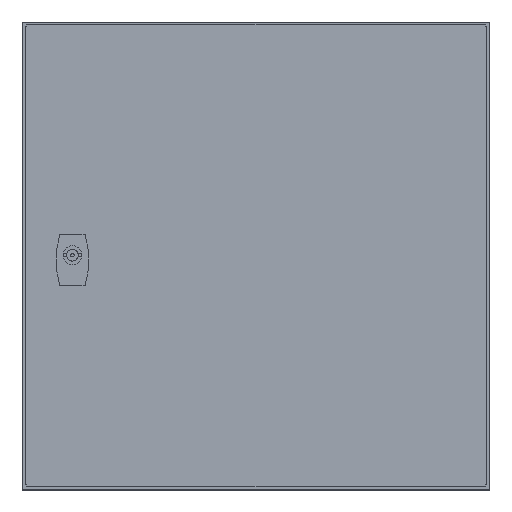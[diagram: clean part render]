
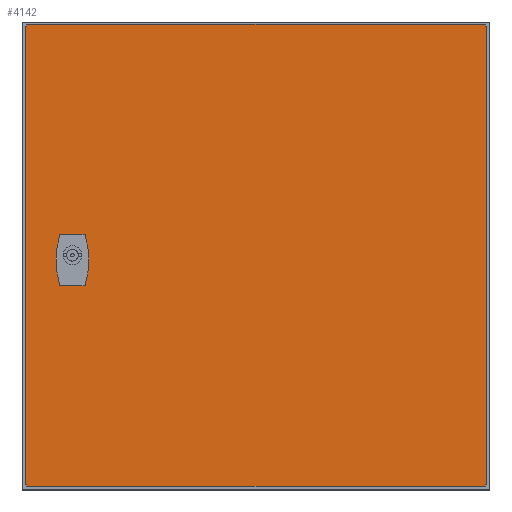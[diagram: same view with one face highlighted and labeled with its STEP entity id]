
A CAD part, top view. The second image highlights one B-rep face of the part: STEP entity #4142.
In plain terms, the highlighted planar face has unit normal (0, 0, 1) as drawn and (0, 1, 0) by its records, which use the part's own axes.
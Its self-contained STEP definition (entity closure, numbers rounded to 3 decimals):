
#3573=DIRECTION('',(1.,0.,0.));
#3574=VECTOR('',#3573,1.5);
#3575=CARTESIAN_POINT('',(-197.5,16.5,-196.));
#3576=LINE('',#3575,#3574);
#3580=DIRECTION('',(0.,0.,1.));
#3581=VECTOR('',#3580,1.5);
#3582=CARTESIAN_POINT('',(-196.,16.5,-197.5));
#3583=LINE('',#3582,#3581);
#3587=DIRECTION('',(-1.,0.,0.));
#3588=VECTOR('',#3587,392.);
#3589=CARTESIAN_POINT('',(196.,16.5,-197.5));
#3590=LINE('',#3589,#3588);
#3594=DIRECTION('',(0.,0.,1.));
#3595=VECTOR('',#3594,1.5);
#3596=CARTESIAN_POINT('',(196.,16.5,-197.5));
#3597=LINE('',#3596,#3595);
#3601=DIRECTION('',(-1.,0.,0.));
#3602=VECTOR('',#3601,1.5);
#3603=CARTESIAN_POINT('',(197.5,16.5,-196.));
#3604=LINE('',#3603,#3602);
#3608=DIRECTION('',(0.,0.,-1.));
#3609=VECTOR('',#3608,392.);
#3610=CARTESIAN_POINT('',(197.5,16.5,196.));
#3611=LINE('',#3610,#3609);
#3615=DIRECTION('',(-1.,0.,0.));
#3616=VECTOR('',#3615,1.5);
#3617=CARTESIAN_POINT('',(197.5,16.5,196.));
#3618=LINE('',#3617,#3616);
#3622=DIRECTION('',(0.,0.,-1.));
#3623=VECTOR('',#3622,1.5);
#3624=CARTESIAN_POINT('',(196.,16.5,197.5));
#3625=LINE('',#3624,#3623);
#3629=DIRECTION('',(1.,0.,0.));
#3630=VECTOR('',#3629,392.);
#3631=CARTESIAN_POINT('',(-196.,16.5,197.5));
#3632=LINE('',#3631,#3630);
#3636=DIRECTION('',(0.,0.,-1.));
#3637=VECTOR('',#3636,1.5);
#3638=CARTESIAN_POINT('',(-196.,16.5,197.5));
#3639=LINE('',#3638,#3637);
#3643=DIRECTION('',(1.,0.,0.));
#3644=VECTOR('',#3643,1.5);
#3645=CARTESIAN_POINT('',(-197.5,16.5,196.));
#3646=LINE('',#3645,#3644);
#3650=DIRECTION('',(0.,0.,1.));
#3651=VECTOR('',#3650,392.);
#3652=CARTESIAN_POINT('',(-197.5,16.5,-196.));
#3653=LINE('',#3652,#3651);
#3944=DIRECTION('',(0.,0.,-1.));
#3945=VECTOR('',#3944,20.1);
#3946=CARTESIAN_POINT('',(-167.55,16.5,10.05));
#3947=LINE('',#3946,#3945);
#3965=DIRECTION('',(-1.,0.,0.));
#3966=VECTOR('',#3965,20.1);
#3967=CARTESIAN_POINT('',(-147.45,16.5,10.05));
#3968=LINE('',#3967,#3966);
#3986=DIRECTION('',(0.,0.,1.));
#3987=VECTOR('',#3986,20.1);
#3988=CARTESIAN_POINT('',(-147.45,16.5,-10.05));
#3989=LINE('',#3988,#3987);
#4007=DIRECTION('',(1.,0.,0.));
#4008=VECTOR('',#4007,20.1);
#4009=CARTESIAN_POINT('',(-167.55,16.5,-10.05));
#4010=LINE('',#4009,#4008);
#4053=CARTESIAN_POINT('',(-197.5,16.5,-196.));
#4054=CARTESIAN_POINT('',(-196.,16.5,-196.));
#4055=VERTEX_POINT('',#4053);
#4056=VERTEX_POINT('',#4054);
#4057=CARTESIAN_POINT('',(-196.,16.5,-197.5));
#4058=VERTEX_POINT('',#4057);
#4059=CARTESIAN_POINT('',(196.,16.5,-197.5));
#4060=CARTESIAN_POINT('',(196.,16.5,-196.));
#4061=VERTEX_POINT('',#4059);
#4062=VERTEX_POINT('',#4060);
#4063=CARTESIAN_POINT('',(197.5,16.5,-196.));
#4064=VERTEX_POINT('',#4063);
#4065=CARTESIAN_POINT('',(197.5,16.5,196.));
#4066=CARTESIAN_POINT('',(196.,16.5,196.));
#4067=VERTEX_POINT('',#4065);
#4068=VERTEX_POINT('',#4066);
#4069=CARTESIAN_POINT('',(196.,16.5,197.5));
#4070=VERTEX_POINT('',#4069);
#4071=CARTESIAN_POINT('',(-196.,16.5,197.5));
#4072=CARTESIAN_POINT('',(-196.,16.5,196.));
#4073=VERTEX_POINT('',#4071);
#4074=VERTEX_POINT('',#4072);
#4075=CARTESIAN_POINT('',(-197.5,16.5,196.));
#4076=VERTEX_POINT('',#4075);
#4085=CARTESIAN_POINT('',(-167.55,16.5,-10.05));
#4087=VERTEX_POINT('',#4085);
#4089=CARTESIAN_POINT('',(-167.55,16.5,10.05));
#4091=VERTEX_POINT('',#4089);
#4093=CARTESIAN_POINT('',(-147.45,16.5,10.05));
#4095=VERTEX_POINT('',#4093);
#4097=CARTESIAN_POINT('',(-147.45,16.5,-10.05));
#4099=VERTEX_POINT('',#4097);
#4101=CARTESIAN_POINT('',(0.,16.5,0.));
#4102=DIRECTION('',(0.,1.,0.));
#4103=DIRECTION('',(1.,0.,0.));
#4104=AXIS2_PLACEMENT_3D('',#4101,#4102,#4103);
#4105=PLANE('',#4104);
#4107=ORIENTED_EDGE('',*,*,#4106,.T.);
#4109=ORIENTED_EDGE('',*,*,#4108,.F.);
#4111=ORIENTED_EDGE('',*,*,#4110,.F.);
#4113=ORIENTED_EDGE('',*,*,#4112,.T.);
#4115=ORIENTED_EDGE('',*,*,#4114,.F.);
#4117=ORIENTED_EDGE('',*,*,#4116,.F.);
#4119=ORIENTED_EDGE('',*,*,#4118,.T.);
#4121=ORIENTED_EDGE('',*,*,#4120,.F.);
#4123=ORIENTED_EDGE('',*,*,#4122,.F.);
#4125=ORIENTED_EDGE('',*,*,#4124,.T.);
#4127=ORIENTED_EDGE('',*,*,#4126,.F.);
#4129=ORIENTED_EDGE('',*,*,#4128,.F.);
#4130=EDGE_LOOP('',(#4107,#4109,#4111,#4113,#4115,#4117,#4119,#4121,#4123,#4125,
#4127,#4129));
#4131=FACE_OUTER_BOUND('',#4130,.F.);
#4133=ORIENTED_EDGE('',*,*,#4132,.F.);
#4135=ORIENTED_EDGE('',*,*,#4134,.F.);
#4137=ORIENTED_EDGE('',*,*,#4136,.F.);
#4139=ORIENTED_EDGE('',*,*,#4138,.F.);
#4140=EDGE_LOOP('',(#4133,#4135,#4137,#4139));
#4141=FACE_BOUND('',#4140,.F.);
#4106=EDGE_CURVE('',#4055,#4056,#3576,.T.);
#4108=EDGE_CURVE('',#4058,#4056,#3583,.T.);
#4110=EDGE_CURVE('',#4061,#4058,#3590,.T.);
#4112=EDGE_CURVE('',#4061,#4062,#3597,.T.);
#4114=EDGE_CURVE('',#4064,#4062,#3604,.T.);
#4116=EDGE_CURVE('',#4067,#4064,#3611,.T.);
#4118=EDGE_CURVE('',#4067,#4068,#3618,.T.);
#4120=EDGE_CURVE('',#4070,#4068,#3625,.T.);
#4122=EDGE_CURVE('',#4073,#4070,#3632,.T.);
#4124=EDGE_CURVE('',#4073,#4074,#3639,.T.);
#4126=EDGE_CURVE('',#4076,#4074,#3646,.T.);
#4128=EDGE_CURVE('',#4055,#4076,#3653,.T.);
#4132=EDGE_CURVE('',#4091,#4087,#3947,.T.);
#4134=EDGE_CURVE('',#4095,#4091,#3968,.T.);
#4136=EDGE_CURVE('',#4099,#4095,#3989,.T.);
#4138=EDGE_CURVE('',#4087,#4099,#4010,.T.);
#4142=ADVANCED_FACE('',(#4131,#4141),#4105,.T.);
